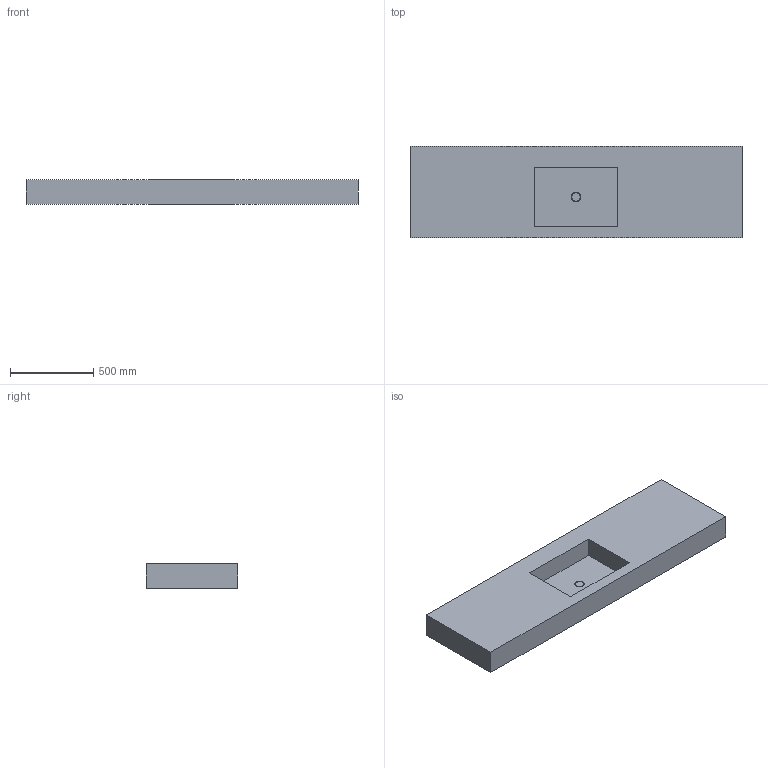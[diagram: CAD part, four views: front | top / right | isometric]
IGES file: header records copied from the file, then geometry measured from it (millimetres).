
Start section:  Autodesk Design for Windows version 2010 IGES version 5.3  Autodesk Design for Windows version 2010 IGES version 5.3
Global section: file name: D:\Desktop\GIOVANNI\SCHEDE PRODOTTO\PIANI LAVABO\SQUARE\3D\MOMA DESIGN_PIANI LAVABO_SQUARE SYSTEM.igs; native system: Rhinoceros ( Jan 17 2018 ); preprocessor: Trout Lake IGES 012 Jan 17 2018; date: 230607.095025; units: millimetre
Bounding box: 2000 x 550 x 150 mm (x, y, z)
Surface area: 3252191.4 mm2 (no closed solid volume)
Topology: 0 solids, 0 shells, 18 faces, 83 edges, 82 vertices
Faces by surface type: bspline 18
